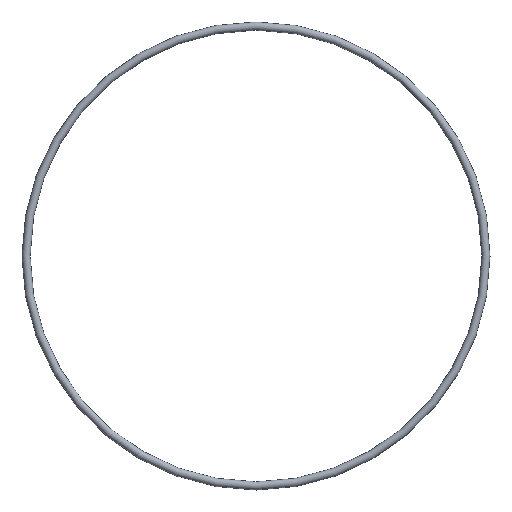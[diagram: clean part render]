
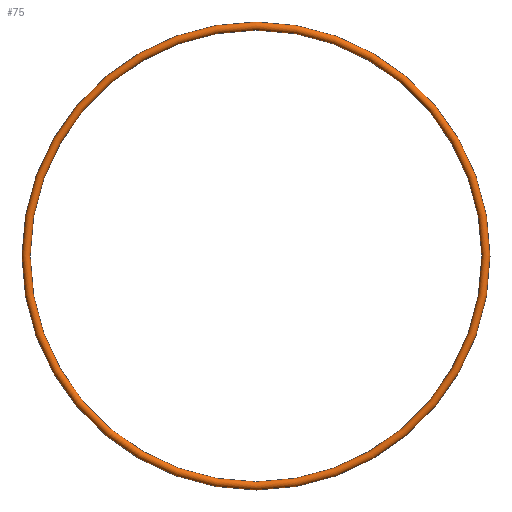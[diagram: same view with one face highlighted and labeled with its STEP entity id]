
A CAD part, front view. The second image highlights one B-rep face of the part: STEP entity #75.
In plain terms, the highlighted toroidal (fillet/blend) face has major radius 49.915 mm and minor radius 0.89 mm.
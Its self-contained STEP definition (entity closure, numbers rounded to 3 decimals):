
#75 = ADVANCED_FACE( '', ( #77 ), #78, .T. );
#77 = FACE_BOUND( '', #79, .T. );
#78 = TOROIDAL_SURFACE( '', #80, 49.915, 0.89 );
#79 = VERTEX_LOOP( '', #81 );
#80 = AXIS2_PLACEMENT_3D( '', #82, #83, #84 );
#81 = VERTEX_POINT( '', #85 );
#82 = CARTESIAN_POINT( '', ( 0., 0., 0. ) );
#83 = DIRECTION( '', ( 0., -1., 0. ) );
#84 = DIRECTION( '', ( 0., 0., -1. ) );
#85 = CARTESIAN_POINT( '', ( 0., 0., -50.805 ) );
